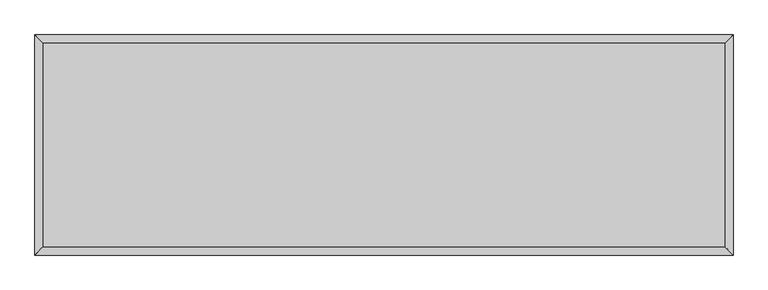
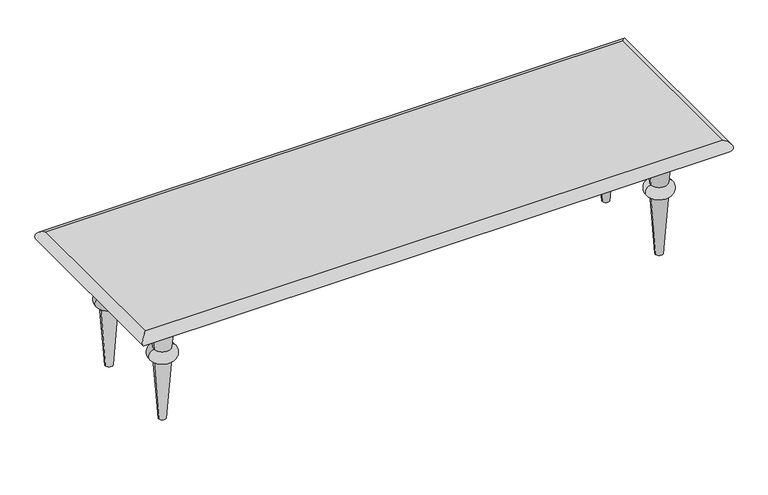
"""IFC4 building model written with IfcOpenShell, lengths in millimetres: furniture geometry, 1_24_Выбор типа стула : 1_24_Выбор типа стула."""

from ifc_helpers import new_model, si_unit, point, frame, origin, place, context, project, spatial, polyline, circle_curve, ellipse_curve, trimmed, source, transform, mapped, element, save
from ifc_brep_helpers import plane_surface, cylinder_surface, revolved_surface, advanced_brep


def furniture_c58f78f0(model_context):
    return source(origin(), model_context, "Body", "AdvancedBrep", [
        advanced_brep(
        [(-2000.0, 600.0, 900.0), (2000.0, 600.0, 900.0), (2000.0, 600.0, 810.0), (-2000.0, 600.0, 810.0), (2000.0, -600.0, 900.0), (2000.0, -600.0, 810.0), (-2000.0, -600.0, 900.0), (-2000.0, -600.0, 810.0)],
        [
            (0, 1),
            (1, 2, ellipse_curve(frame((2000.0, 600.0, 855.0), z_axis=(-0.7071067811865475, 0.7071067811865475, 0.0), x_axis=(-0.7071067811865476, -0.7071067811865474, 0.0)), 63.6396103, 45.0)),
            (2, 3),
            (3, 0, ellipse_curve(frame((-2000.0, 600.0, 855.0), z_axis=(0.7071067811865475, 0.7071067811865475, 0.0), x_axis=(-0.7071067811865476, 0.7071067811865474, 0.0)), 63.6396103, 45.0)),
            (1, 4),
            (4, 5, ellipse_curve(frame((2000.0, -600.0, 855.0), z_axis=(0.7071067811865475, 0.7071067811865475, 0.0), x_axis=(-0.7071067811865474, 0.7071067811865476, 0.0)), 63.6396103, 45.0)),
            (5, 2),
            (4, 6),
            (6, 7, ellipse_curve(frame((-2000.0, -600.0, 855.0), z_axis=(0.7071067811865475, -0.7071067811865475, 0.0), x_axis=(0.7071067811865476, 0.7071067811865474, 0.0)), 63.6396103, 45.0)),
            (7, 5),
            (3, 7),
            (6, 0),
        ],
        [
            cylinder_surface(frame((-2000.0, 600.0, 855.0), z_axis=(-1.0, 0.0, 0.0), x_axis=(0.0, -1.0, 0.0)), 45.0),
            cylinder_surface(frame((2000.0, 600.0, 855.0), z_axis=(0.0, 1.0, 0.0), x_axis=(-1.0, 0.0, 0.0)), 45.0),
            cylinder_surface(frame((2000.0, -600.0, 855.0), z_axis=(1.0, 0.0, 0.0), x_axis=(0.0, 1.0, 0.0)), 45.0),
            cylinder_surface(frame((-2000.0, -600.0, 855.0), z_axis=(0.0, -1.0, 0.0), x_axis=(1.0, 0.0, 0.0)), 45.0),
            plane_surface(frame((-2000.0, -600.0, 900.0), z_axis=(0.0, 0.0, 1.0), x_axis=(-1.0, 0.0, 0.0))),
            plane_surface(frame((-2000.0, -600.0, 810.0), z_axis=(0.0, 0.0, -1.0), x_axis=(1.0, 0.0, 0.0))),
        ],
        [
            (0, [[1, 2, 3, 4]]),
            (1, [[5, 6, 7, -2]]),
            (2, [[8, 9, 10, -6]]),
            (3, [[11, -9, 12, -4]]),
            (4, [[-12, -8, -5, -1]]),
            (5, [[-7, -10, -11, -3]]),
        ],
    ),
        advanced_brep(
        [(1695.0204938, -320.0, 0.0), (1662.9120221, -320.0, 439.1725378), (1777.0879779, -320.0, 439.1725378), (1744.9795062, -320.0, 0.0), (1662.9120221, -320.0, 519.1725378), (1777.0879779, -320.0, 519.1725378), (1636.9868716, -320.0, 810.0), (1803.0131284, -320.0, 810.0), (1720.0, -320.0, 810.0), (1720.0, -320.0, 0.0)],
        [
            (0, 1),
            (1, 2, circle_curve(frame((1720.0, -320.0, 439.1725378), z_axis=(0.0, 0.0, -1.0), x_axis=(1.0, 0.0, 0.0)), 57.0879779)),
            (2, 3),
            (3, 0, circle_curve(frame((1720.0, -320.0, 0.0), z_axis=(0.0, 0.0, 1.0), x_axis=(1.0, 0.0, 0.0)), 24.9795062)),
            (2, 1, circle_curve(frame((1720.0, -320.0, 439.1725378), z_axis=(0.0, 0.0, -1.0), x_axis=(1.0, 0.0, 0.0)), 57.0879779)),
            (0, 3, circle_curve(frame((1720.0, -320.0, 0.0), z_axis=(0.0, 0.0, 1.0), x_axis=(1.0, 0.0, 0.0)), 24.9795062)),
            (1, 4, circle_curve(frame((1662.9120221, -320.0, 479.1725378), z_axis=(0.0, 1.0, 0.0), x_axis=(-1.0, 0.0, 0.0)), 40.0)),
            (4, 5, circle_curve(frame((1720.0, -320.0, 519.1725378), z_axis=(0.0, 0.0, -1.0), x_axis=(1.0, 0.0, 0.0)), 57.0879779)),
            (5, 2, circle_curve(frame((1777.0879779, -320.0, 479.1725378), z_axis=(0.0, 1.0, 0.0), x_axis=(1.0, 0.0, 0.0)), 40.0)),
            (5, 4, circle_curve(frame((1720.0, -320.0, 519.1725378), z_axis=(0.0, 0.0, -1.0), x_axis=(1.0, 0.0, 0.0)), 57.0879779)),
            (4, 6),
            (6, 7, circle_curve(frame((1720.0, -320.0, 810.0), z_axis=(0.0, 0.0, -1.0), x_axis=(1.0, 0.0, 0.0)), 83.0131284)),
            (7, 5),
            (7, 6, circle_curve(frame((1720.0, -320.0, 810.0), z_axis=(0.0, 0.0, -1.0), x_axis=(1.0, 0.0, 0.0)), 83.0131284)),
            (6, 8),
            (8, 7),
            (9, 0),
            (3, 9),
        ],
        [
            revolved_surface(polyline([(1777.0879779, -320.0, 439.1725378), (1744.9795062, -320.0, 0.0)]), (1720.0, -320.0, 2438.6930747), (0.0, 0.0, -1.0)),
            revolved_surface(trimmed(ellipse_curve(frame((1777.0879779, -320.0, 479.1725378), z_axis=(0.0, 1.0, 0.0), x_axis=(1.0, 0.0, 0.0)), 40.0, 40.0), [point((1777.0879779, -320.0, 519.1725378))], [point((1777.0879779, -320.0, 439.1725378))], True, "CARTESIAN"), (1720.0, -320.0, 2438.6930747), (0.0, 0.0, -1.0)),
            revolved_surface(polyline([(1803.0131284, -320.0, 810.0), (1777.0879779, -320.0, 519.1725378)]), (1720.0, -320.0, 2438.6930747), (0.0, 0.0, -1.0)),
            plane_surface(frame((1720.0, -320.0, 810.0), z_axis=(0.0, 0.0, 1.0), x_axis=(1.0, 0.0, 0.0))),
            plane_surface(frame((1720.0, -320.0, 0.0), z_axis=(0.0, 0.0, -1.0), x_axis=(1.0, 0.0, 0.0))),
        ],
        [
            (0, [[1, 2, 3, 4]]),
            (0, [[-3, 5, -1, 6]]),
            (1, [[7, 8, 9, -2]]),
            (1, [[-9, 10, -7, -5]]),
            (2, [[11, 12, 13, -8]]),
            (2, [[-13, 14, -11, -10]]),
            (3, [[15, 16, -12]]),
            (3, [[-16, -15, -14]]),
            (4, [[17, -4, 18]]),
            (4, [[-18, -6, -17]]),
        ],
    ),
        advanced_brep(
        [(-1662.9120221, -320.0, 439.1725378), (-1695.0204938, -320.0, 0.0), (-1744.9795062, -320.0, 0.0), (-1777.0879779, -320.0, 439.1725378), (-1662.9120221, -320.0, 519.1725378), (-1777.0879779, -320.0, 519.1725378), (-1636.9868716, -320.0, 810.0), (-1803.0131284, -320.0, 810.0), (-1720.0, -320.0, 810.0), (-1720.0, -320.0, 0.0)],
        [
            (0, 1),
            (1, 2, circle_curve(frame((-1720.0, -320.0, 0.0), z_axis=(0.0, 0.0, 1.0), x_axis=(-1.0, 0.0, 0.0)), 24.9795062)),
            (2, 3),
            (3, 0, circle_curve(frame((-1720.0, -320.0, 439.1725378), z_axis=(0.0, 0.0, -1.0), x_axis=(-1.0, 0.0, 0.0)), 57.0879779)),
            (2, 1, circle_curve(frame((-1720.0, -320.0, 0.0), z_axis=(0.0, 0.0, 1.0), x_axis=(-1.0, 0.0, 0.0)), 24.9795062)),
            (0, 3, circle_curve(frame((-1720.0, -320.0, 439.1725378), z_axis=(0.0, 0.0, -1.0), x_axis=(-1.0, 0.0, 0.0)), 57.0879779)),
            (4, 0, circle_curve(frame((-1662.9120221, -320.0, 479.1725378), z_axis=(0.0, 1.0, 0.0), x_axis=(1.0, 0.0, 0.0)), 40.0)),
            (3, 5, circle_curve(frame((-1777.0879779, -320.0, 479.1725378), z_axis=(0.0, 1.0, 0.0), x_axis=(-1.0, 0.0, 0.0)), 40.0)),
            (5, 4, circle_curve(frame((-1720.0, -320.0, 519.1725378), z_axis=(0.0, 0.0, -1.0), x_axis=(-1.0, 0.0, 0.0)), 57.0879779)),
            (4, 5, circle_curve(frame((-1720.0, -320.0, 519.1725378), z_axis=(0.0, 0.0, -1.0), x_axis=(-1.0, 0.0, 0.0)), 57.0879779)),
            (6, 4),
            (5, 7),
            (7, 6, circle_curve(frame((-1720.0, -320.0, 810.0), z_axis=(0.0, 0.0, -1.0), x_axis=(-1.0, 0.0, 0.0)), 83.0131284)),
            (6, 7, circle_curve(frame((-1720.0, -320.0, 810.0), z_axis=(0.0, 0.0, -1.0), x_axis=(-1.0, 0.0, 0.0)), 83.0131284)),
            (8, 6),
            (7, 8),
            (1, 9),
            (9, 2),
        ],
        [
            revolved_surface(polyline([(-1744.9795062, -320.0, 0.0), (-1777.0879779, -320.0, 439.1725378)]), (-1720.0, -320.0, 2438.6930747), (0.0, 0.0, 1.0)),
            revolved_surface(trimmed(ellipse_curve(frame((-1777.0879779, -320.0, 479.1725378), z_axis=(0.0, 1.0, 0.0), x_axis=(-1.0, 0.0, 0.0)), 40.0, 40.0), [point((-1777.0879779, -320.0, 439.1725378))], [point((-1777.0879779, -320.0, 519.1725378))], True, "CARTESIAN"), (-1720.0, -320.0, 2438.6930747), (0.0, 0.0, 1.0)),
            revolved_surface(polyline([(-1777.0879779, -320.0, 519.1725378), (-1803.0131284, -320.0, 810.0)]), (-1720.0, -320.0, 2438.6930747), (0.0, 0.0, 1.0)),
            plane_surface(frame((-1720.0, -320.0, 810.0), z_axis=(0.0, 0.0, 1.0), x_axis=(-1.0, 0.0, 0.0))),
            plane_surface(frame((-1720.0, -320.0, 0.0), z_axis=(0.0, 0.0, -1.0), x_axis=(-1.0, 0.0, 0.0))),
        ],
        [
            (0, [[1, 2, 3, 4]]),
            (0, [[-3, 5, -1, 6]]),
            (1, [[7, -4, 8, 9]]),
            (1, [[-8, -6, -7, 10]]),
            (2, [[11, -9, 12, 13]]),
            (2, [[-12, -10, -11, 14]]),
            (3, [[15, -13, 16]]),
            (3, [[-16, -14, -15]]),
            (4, [[17, 18, -2]]),
            (4, [[-18, -17, -5]]),
        ],
    ),
        advanced_brep(
        [(1695.0, 320.0, 0.0), (1662.9120221, 320.0, 438.8794631), (1777.0879779, 320.0, 438.8794631), (1745.0, 320.0, 0.0), (1662.9120221, 320.0, 518.8794631), (1777.0879779, 320.0, 518.8794631), (1636.9607461, 320.0, 810.0), (1803.0392539, 320.0, 810.0), (1720.0, 320.0, 810.0), (1720.0, 320.0, 0.0)],
        [
            (0, 1),
            (1, 2, circle_curve(frame((1720.0, 320.0, 438.8794631), z_axis=(0.0, 0.0, -1.0), x_axis=(1.0, 0.0, 0.0)), 57.0879779)),
            (2, 3),
            (3, 0, circle_curve(frame((1720.0, 320.0, 0.0), z_axis=(0.0, 0.0, 1.0), x_axis=(1.0, 0.0, 0.0)), 25.0)),
            (2, 1, circle_curve(frame((1720.0, 320.0, 438.8794631), z_axis=(0.0, 0.0, -1.0), x_axis=(1.0, 0.0, 0.0)), 57.0879779)),
            (0, 3, circle_curve(frame((1720.0, 320.0, 0.0), z_axis=(0.0, 0.0, 1.0), x_axis=(1.0, 0.0, 0.0)), 25.0)),
            (1, 4, circle_curve(frame((1662.9120221, 320.0, 478.8794631), z_axis=(0.0, 1.0, 0.0), x_axis=(-1.0, 0.0, 0.0)), 40.0)),
            (4, 5, circle_curve(frame((1720.0, 320.0, 518.8794631), z_axis=(0.0, 0.0, -1.0), x_axis=(1.0, 0.0, 0.0)), 57.0879779)),
            (5, 2, circle_curve(frame((1777.0879779, 320.0, 478.8794631), z_axis=(0.0, 1.0, 0.0), x_axis=(1.0, 0.0, 0.0)), 40.0)),
            (5, 4, circle_curve(frame((1720.0, 320.0, 518.8794631), z_axis=(0.0, 0.0, -1.0), x_axis=(1.0, 0.0, 0.0)), 57.0879779)),
            (4, 6),
            (6, 7, circle_curve(frame((1720.0, 320.0, 810.0), z_axis=(0.0, 0.0, -1.0), x_axis=(1.0, 0.0, 0.0)), 83.0392539)),
            (7, 5),
            (7, 6, circle_curve(frame((1720.0, 320.0, 810.0), z_axis=(0.0, 0.0, -1.0), x_axis=(1.0, 0.0, 0.0)), 83.0392539)),
            (6, 8),
            (8, 7),
            (9, 0),
            (3, 9),
        ],
        [
            revolved_surface(polyline([(1777.0879779, 320.0, 438.8794631), (1745.0, 320.0, 0.0)]), (1720.0, 320.0, 2438.4), (0.0, 0.0, -1.0)),
            revolved_surface(trimmed(ellipse_curve(frame((1777.0879779, 320.0, 478.8794631), z_axis=(0.0, 1.0, 0.0), x_axis=(1.0, 0.0, 0.0)), 40.0, 40.0), [point((1777.0879779, 320.0, 518.8794631))], [point((1777.0879779, 320.0, 438.8794631))], True, "CARTESIAN"), (1720.0, 320.0, 2438.4), (0.0, 0.0, -1.0)),
            revolved_surface(polyline([(1803.0392539, 320.0, 810.0), (1777.0879779, 320.0, 518.8794631)]), (1720.0, 320.0, 2438.4), (0.0, 0.0, -1.0)),
            plane_surface(frame((1720.0, 320.0, 810.0), z_axis=(0.0, 0.0, 1.0), x_axis=(1.0, 0.0, 0.0))),
            plane_surface(frame((1720.0, 320.0, 0.0), z_axis=(0.0, 0.0, -1.0), x_axis=(1.0, 0.0, 0.0))),
        ],
        [
            (0, [[1, 2, 3, 4]]),
            (0, [[-3, 5, -1, 6]]),
            (1, [[7, 8, 9, -2]]),
            (1, [[-9, 10, -7, -5]]),
            (2, [[11, 12, 13, -8]]),
            (2, [[-13, 14, -11, -10]]),
            (3, [[15, 16, -12]]),
            (3, [[-16, -15, -14]]),
            (4, [[17, -4, 18]]),
            (4, [[-18, -6, -17]]),
        ],
    ),
        advanced_brep(
        [(-1662.9120221, 320.0, 438.8794631), (-1695.0, 320.0, 0.0), (-1745.0, 320.0, 0.0), (-1777.0879779, 320.0, 438.8794631), (-1662.9120221, 320.0, 518.8794631), (-1777.0879779, 320.0, 518.8794631), (-1636.9607461, 320.0, 810.0), (-1803.0392539, 320.0, 810.0), (-1720.0, 320.0, 810.0), (-1720.0, 320.0, 0.0)],
        [
            (0, 1),
            (1, 2, circle_curve(frame((-1720.0, 320.0, 0.0), z_axis=(0.0, 0.0, 1.0), x_axis=(-1.0, 0.0, 0.0)), 25.0)),
            (2, 3),
            (3, 0, circle_curve(frame((-1720.0, 320.0, 438.8794631), z_axis=(0.0, 0.0, -1.0), x_axis=(-1.0, 0.0, 0.0)), 57.0879779)),
            (2, 1, circle_curve(frame((-1720.0, 320.0, 0.0), z_axis=(0.0, 0.0, 1.0), x_axis=(-1.0, 0.0, 0.0)), 25.0)),
            (0, 3, circle_curve(frame((-1720.0, 320.0, 438.8794631), z_axis=(0.0, 0.0, -1.0), x_axis=(-1.0, 0.0, 0.0)), 57.0879779)),
            (4, 0, circle_curve(frame((-1662.9120221, 320.0, 478.8794631), z_axis=(0.0, 1.0, 0.0), x_axis=(1.0, 0.0, 0.0)), 40.0)),
            (3, 5, circle_curve(frame((-1777.0879779, 320.0, 478.8794631), z_axis=(0.0, 1.0, 0.0), x_axis=(-1.0, 0.0, 0.0)), 40.0)),
            (5, 4, circle_curve(frame((-1720.0, 320.0, 518.8794631), z_axis=(0.0, 0.0, -1.0), x_axis=(-1.0, 0.0, 0.0)), 57.0879779)),
            (4, 5, circle_curve(frame((-1720.0, 320.0, 518.8794631), z_axis=(0.0, 0.0, -1.0), x_axis=(-1.0, 0.0, 0.0)), 57.0879779)),
            (6, 4),
            (5, 7),
            (7, 6, circle_curve(frame((-1720.0, 320.0, 810.0), z_axis=(0.0, 0.0, -1.0), x_axis=(-1.0, 0.0, 0.0)), 83.0392539)),
            (6, 7, circle_curve(frame((-1720.0, 320.0, 810.0), z_axis=(0.0, 0.0, -1.0), x_axis=(-1.0, 0.0, 0.0)), 83.0392539)),
            (8, 6),
            (7, 8),
            (1, 9),
            (9, 2),
        ],
        [
            revolved_surface(polyline([(-1745.0, 320.0, 0.0), (-1777.0879779, 320.0, 438.8794631)]), (-1720.0, 320.0, 2438.4), (0.0, 0.0, 1.0)),
            revolved_surface(trimmed(ellipse_curve(frame((-1777.0879779, 320.0, 478.8794631), z_axis=(0.0, 1.0, 0.0), x_axis=(-1.0, 0.0, 0.0)), 40.0, 40.0), [point((-1777.0879779, 320.0, 438.8794631))], [point((-1777.0879779, 320.0, 518.8794631))], True, "CARTESIAN"), (-1720.0, 320.0, 2438.4), (0.0, 0.0, 1.0)),
            revolved_surface(polyline([(-1777.0879779, 320.0, 518.8794631), (-1803.0392539, 320.0, 810.0)]), (-1720.0, 320.0, 2438.4), (0.0, 0.0, 1.0)),
            plane_surface(frame((-1720.0, 320.0, 810.0), z_axis=(0.0, 0.0, 1.0), x_axis=(-1.0, 0.0, 0.0))),
            plane_surface(frame((-1720.0, 320.0, 0.0), z_axis=(0.0, 0.0, -1.0), x_axis=(-1.0, 0.0, 0.0))),
        ],
        [
            (0, [[1, 2, 3, 4]]),
            (0, [[-3, 5, -1, 6]]),
            (1, [[7, -4, 8, 9]]),
            (1, [[-8, -6, -7, 10]]),
            (2, [[11, -9, 12, 13]]),
            (2, [[-12, -10, -11, 14]]),
            (3, [[15, -13, 16]]),
            (3, [[-16, -14, -15]]),
            (4, [[17, 18, -2]]),
            (4, [[-18, -17, -5]]),
        ],
    ),
    ])


if __name__ == "__main__":
    model = new_model("IFC4")
    model_context = context("Model", 3, world=origin())
    ifc_project = project(units=[si_unit("LENGTHUNIT", "METRE", prefix="MILLI")], contexts=[model_context])
    site = spatial("IfcSite", under=ifc_project)
    building = spatial("IfcBuilding", under=site)
    placement = place(None, origin())
    furniture_shape = furniture_c58f78f0(model_context)
    element("IfcFurniture", 1, ObjectType="1_24_Выбор типа стула : 1_24_Выбор типа стула", at=placement, inside=building, context=model_context, shape_type="MappedRepresentation", body=[
        mapped(furniture_shape, transform((0.0, 0.0, 0.0), x_axis=(1.0, 0.0, 0.0), y_axis=(0.0, 1.0, 0.0), z_axis=(0.0, 0.0, 1.0))),
    ])
    save(model, "model.ifc")
